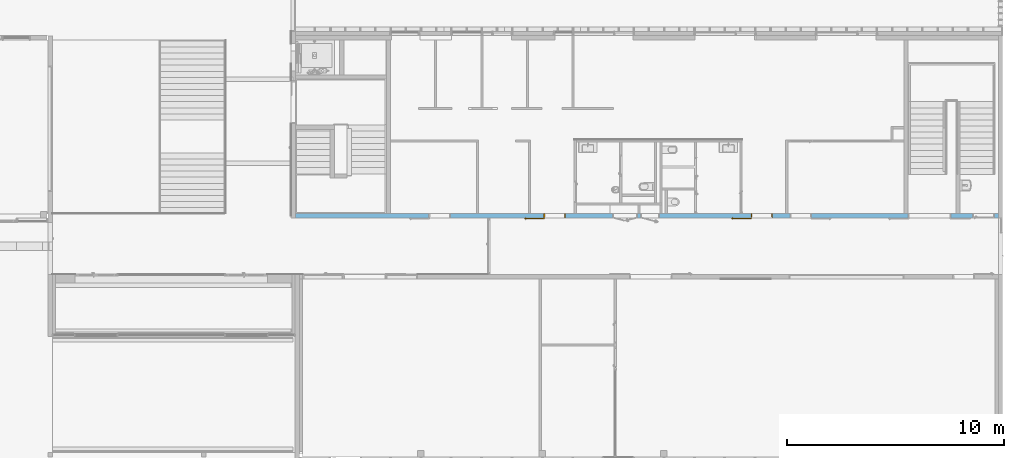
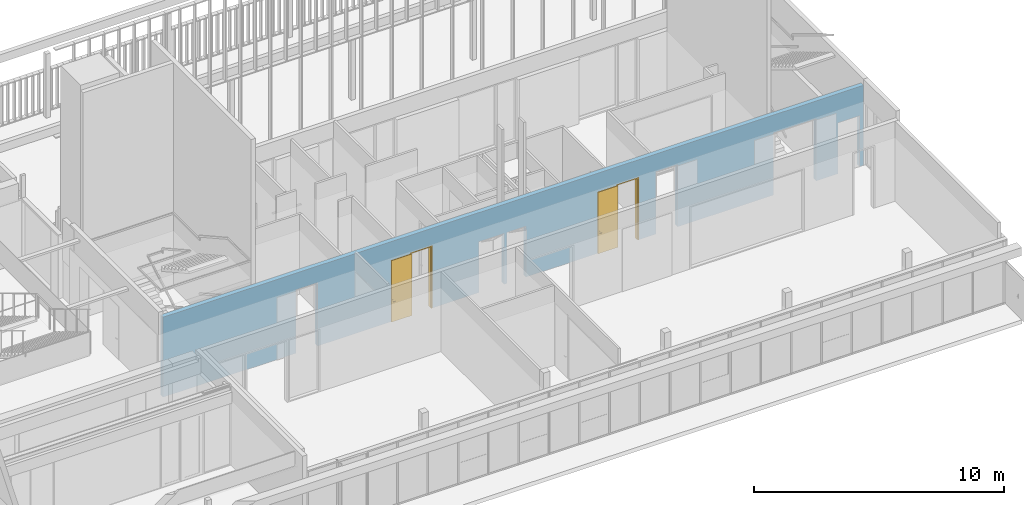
# One storey, part 165 of 240: 2 doors, 8 openings, plus 1 element that does not belong to this part.
"""IFC2X3 building model written with IfcOpenShell, lengths in centimetres."""

from ifc_helpers import new_model, entity, si_unit, converted_unit, derived_unit, direction, frame, frame_2d, origin, place, context, subcontext, project, spatial, polyline, rectangle, extrude, clip, bounded_halfspace, faceted_brep, source, transform, mapped, material, material_list, layer, layer_set, layer_usage, type_object, type_shapes, element, fill, save


model = new_model("IFC2X3")

# Units and contexts
model_context = context("Model", 3, precision=0.001, world=origin(), true_north=direction((6.12303176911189e-17, 1.0)))
body_context = subcontext(model_context, "Body", "Model", "MODEL_VIEW")
ifc_project = project(units=[si_unit("LENGTHUNIT", "METRE", prefix="CENTI"), si_unit("AREAUNIT", "SQUARE_METRE"), si_unit("VOLUMEUNIT", "CUBIC_METRE"), converted_unit("PLANEANGLEUNIT", "DEGREE", entity("IfcRatioMeasure", 0.0174532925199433), si_unit("PLANEANGLEUNIT", "RADIAN"), dimensions=[0, 0, 0, 0, 0, 0, 0]), si_unit("MASSUNIT", "GRAM", prefix="KILO"), derived_unit("MASSDENSITYUNIT", [(si_unit("MASSUNIT", "GRAM", prefix="KILO"), 1), (si_unit("LENGTHUNIT", "METRE"), -3)]), si_unit("TIMEUNIT", "SECOND"), si_unit("FREQUENCYUNIT", "HERTZ"), si_unit("THERMODYNAMICTEMPERATUREUNIT", "DEGREE_CELSIUS"), derived_unit("THERMALTRANSMITTANCEUNIT", [(si_unit("MASSUNIT", "GRAM", prefix="KILO"), 1), (si_unit("THERMODYNAMICTEMPERATUREUNIT", "KELVIN"), -1), (si_unit("TIMEUNIT", "SECOND"), -3)]), derived_unit("VOLUMETRICFLOWRATEUNIT", [(si_unit("LENGTHUNIT", "METRE"), 3), (si_unit("TIMEUNIT", "SECOND"), -1)]), si_unit("ELECTRICCURRENTUNIT", "AMPERE"), si_unit("ELECTRICVOLTAGEUNIT", "VOLT"), si_unit("POWERUNIT", "WATT"), si_unit("FORCEUNIT", "NEWTON", prefix="KILO"), si_unit("ILLUMINANCEUNIT", "LUX"), si_unit("LUMINOUSFLUXUNIT", "LUMEN"), si_unit("LUMINOUSINTENSITYUNIT", "CANDELA"), derived_unit("USERDEFINED", [(si_unit("MASSUNIT", "GRAM", prefix="KILO"), -1), (si_unit("LENGTHUNIT", "METRE"), -2), (si_unit("TIMEUNIT", "SECOND"), 3), (si_unit("LUMINOUSFLUXUNIT", "LUMEN"), 1)]), derived_unit("LINEARVELOCITYUNIT", [(si_unit("LENGTHUNIT", "METRE"), 1), (si_unit("TIMEUNIT", "SECOND"), -1)]), si_unit("PRESSUREUNIT", "PASCAL"), derived_unit("USERDEFINED", [(si_unit("LENGTHUNIT", "METRE"), -2), (si_unit("MASSUNIT", "GRAM", prefix="KILO"), 1), (si_unit("TIMEUNIT", "SECOND"), -2)])], contexts=[model_context])

# Site, building, storey
site_placement = place(None, frame((-2781.94577612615, 7442.24238424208, 0.0)))
site = spatial("IfcSite", under=ifc_project, at=site_placement, Name="Default", CompositionType="ELEMENT")
building_placement = place(site_placement, origin())
building = spatial("IfcBuilding", under=site, at=building_placement, CompositionType="ELEMENT")
storey_placement = place(building_placement, origin())
storey = spatial("IfcBuildingStorey", under=building, at=storey_placement, Name="N00 - COO", CompositionType="ELEMENT", Elevation=0.0)

# Wall, openings, doors
ifc_material_1 = material(Name="01 - Maçonnerie")
ifc_layer = layer(ifc_material_1, 20.0)
ifc_layer_set = layer_set([ifc_layer], Name="Mur de base:04 - Structure - béton - 20cm")
ifc_layer_usage = layer_usage(ifc_layer_set, "AXIS2", "NEGATIVE", 10.0)
wall_type = type_object("IfcWallType", Name="Mur de base:04 - Structure - béton - 20cm", PredefinedType="STANDARD", material=ifc_layer_set)
wall_placement = place(building_placement, frame((-3647.99987968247, -1920.07903364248, 0.0)))
wall = element("IfcWallStandardCase", 1, at=wall_placement, inside=storey, type_object=wall_type, material=ifc_layer_usage, Name="Mur de base:04 - Structure - béton - 20cm", ObjectType="Mur de base:04 - Structure - béton - 20cm", context=body_context, shape_type="Clipping", body=[
    clip(extrude(rectangle(XDim=3237.99999684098, YDim=19.9999999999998, at=frame_2d((1618.99999842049, -2.66453525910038e-15), x_axis=(-1.0, 0.0))), origin(), (0.0, 0.0, 1.0), 391.0), bounded_halfspace(frame((0.0, -10.0, 391.0), z_axis=(0.0, 0.0, -1.0), x_axis=(0.0, 1.0, 0.0)), True, frame((0.0, -10.0, 391.0)), polyline([(0.0, 0.0), (3238.0, 0.0), (3238.0, 20.0), (3062.69999684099, 20.0), (3042.69999684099, 20.0), (2268.49999684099, 20.0), (2258.49999684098, 20.0), (2058.49999684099, 20.0), (2048.49999684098, 20.0), (1848.49999684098, 20.0), (1838.49999684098, 20.0), (1713.49999684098, 20.0), (1703.49999684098, 20.0), (1293.99999684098, 20.0), (1283.99999684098, 20.0), (1083.99999684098, 20.0), (1073.99999684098, 20.0), (843.999996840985, 20.0), (833.999996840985, 20.0), (438.699996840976, 20.0), (0.0, 20.0), (0.0, 0.0)]))),
])
opening_1_placement = place(wall_placement, frame((3019.69999684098, 10.0, 0.0)))
element("IfcOpeningElement", 2, at=opening_1_placement, cuts=wall, Name="Int. Double:PP (1.90m x 3.00m):1", ObjectType="Opening", context=body_context, shape_type="SweptSolid", body=[
    extrude(rectangle(XDim=304.500000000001, YDim=197.0, at=frame_2d((152.250000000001, 98.5), x_axis=(1.0, 0.0))), frame((0.0, 0.0, 0.0), z_axis=(0.0, -1.0, 0.0), x_axis=(0.0, 0.0, 1.0)), (0.0, 0.0, 1.0), 20.0),
])
opening_2_placement = place(wall_placement, frame((1243.99999684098, 10.0, 0.0)))
opening_2 = element("IfcOpeningElement", 3, at=opening_2_placement, cuts=wall, Name="Int. Simple:PV (0.93m x 3.00m):1", ObjectType="Opening", context=body_context, shape_type="SweptSolid", body=[
    extrude(rectangle(XDim=304.500000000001, YDim=99.9999999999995, at=frame_2d((152.250000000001, 49.9999999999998), x_axis=(1.0, 0.0))), frame((0.0, 0.0, 0.0), z_axis=(0.0, -1.0, 0.0), x_axis=(0.0, 0.0, 1.0)), (0.0, 0.0, 1.0), 20.0),
])
opening_3_placement = place(wall_placement, frame((2198.49999684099, 10.0, 0.0)))
opening_3 = element("IfcOpeningElement", 4, at=opening_3_placement, cuts=wall, Name="Int. Simple:PV (0.93m x 3.00m):1", ObjectType="Opening", context=body_context, shape_type="SweptSolid", body=[
    extrude(rectangle(XDim=304.500000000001, YDim=99.9999999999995, at=frame_2d((152.250000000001, 49.9999999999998), x_axis=(1.0, 0.0))), frame((0.0, 0.0, 0.0), z_axis=(0.0, -1.0, 0.0), x_axis=(0.0, 0.0, 1.0)), (0.0, 0.0, 1.0), 20.0),
])
opening_4_placement = place(wall_placement, frame((713.999996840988, 10.0, 0.0)))
element("IfcOpeningElement", 5, at=opening_4_placement, cuts=wall, Name="Int. Simple:PP (0.93m x 3.06m):1", ObjectType="Opening", context=body_context, shape_type="SweptSolid", body=[
    extrude(rectangle(XDim=309.500000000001, YDim=99.9999999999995, at=frame_2d((154.750000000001, 49.9999999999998), x_axis=(1.0, 0.0))), frame((0.0, 0.0, 0.0), z_axis=(0.0, -1.0, 0.0), x_axis=(0.0, 0.0, 1.0)), (0.0, 0.0, 1.0), 20.0),
])
opening_5_placement = place(wall_placement, frame((1576.99999684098, 10.0, 0.0)))
element("IfcOpeningElement", 6, at=opening_5_placement, cuts=wall, Name="Int. Double:PP Placard (1.10m x 2.50m):1", ObjectType="Opening", context=body_context, shape_type="SweptSolid", body=[
    extrude(rectangle(XDim=248.500000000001, YDim=117.0, at=frame_2d((124.250000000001, 58.5000000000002), x_axis=(1.0, 0.0))), frame((0.0, 0.0, 0.0), z_axis=(0.0, -1.0, 0.0), x_axis=(0.0, 0.0, 1.0)), (0.0, 0.0, 1.0), 20.0),
])
opening_6_placement = place(wall_placement, frame((1677.0, 10.0, 0.0)))
element("IfcOpeningElement", 7, at=opening_6_placement, cuts=wall, Name="Int. Simple:PP Placard (0.80m x 2.50m):1", ObjectType="Opening", context=body_context, shape_type="SweptSolid", body=[
    extrude(rectangle(XDim=248.500000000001, YDim=86.9999999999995, at=frame_2d((124.250000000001, 43.4999999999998), x_axis=(1.0, 0.0))), frame((0.0, 0.0, 0.0), z_axis=(0.0, -1.0, 0.0), x_axis=(0.0, 0.0, 1.0)), (0.0, 0.0, 1.0), 20.0),
])
opening_7_placement = place(wall_placement, frame((2378.49999684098, 10.0, 0.0)))
element("IfcOpeningElement", 8, at=opening_7_placement, cuts=wall, Name="Int. Simple:PV (0.93m x 3.00m):1", ObjectType="Opening", context=body_context, shape_type="SweptSolid", body=[
    extrude(rectangle(XDim=304.500000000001, YDim=99.9999999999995, at=frame_2d((152.250000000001, 49.9999999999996), x_axis=(1.0, 0.0))), frame((0.0, 0.0, 0.0), z_axis=(0.0, -1.0, 0.0), x_axis=(0.0, 0.0, 1.0)), (0.0, 0.0, 1.0), 20.0),
])
opening_8_placement = place(wall_placement, frame((3220.0, 10.0, 0.0)))
element("IfcOpeningElement", 9, at=opening_8_placement, cuts=wall, Name="Int. Simple:PP simple (0.93m x 2.50m):1", ObjectType="Opening", context=body_context, shape_type="SweptSolid", body=[
    extrude(rectangle(XDim=248.500000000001, YDim=99.9999999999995, at=frame_2d((124.250000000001, 49.9999999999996), x_axis=(1.0, 0.0))), frame((0.0, 0.0, 0.0), z_axis=(0.0, -1.0, 0.0), x_axis=(0.0, 0.0, 1.0)), (0.0, 0.0, 1.0), 20.0),
])
ifc_material_2 = material(Name="Finition Peinture - Blanc satiné")
ifc_material_3 = material(Name="Bois - Panneau de porte")
ifc_material_4 = material(Name="Bois - Cadre de porte")
ifc_material_list_1 = material_list([ifc_material_2, ifc_material_3, ifc_material_4])
ifc_material_list_2 = material_list([ifc_material_2, ifc_material_3, ifc_material_4])
door_style = type_object("IfcDoorStyle", Name="PV (0.93m x 3.00m)", ConstructionType="NOTDEFINED", OperationType="SINGLE_SWING_RIGHT", ParameterTakesPrecedence=False, Sizeable=False, material=ifc_material_list_2)
shared_shape = source(origin(), body_context, "Body", "Brep", [
    faceted_brep([(-78.4999999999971, 0.499999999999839, 87.0), (-78.4999999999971, 0.499999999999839, 108.0), (-77.5352761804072, 0.499999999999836, 108.399601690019), (-76.4999999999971, 0.49999999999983, 108.535898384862), (-75.4647238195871, 0.499999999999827, 108.399601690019), (-74.4999999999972, 0.499999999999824, 108.0), (-74.499999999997, 0.499999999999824, 87.0), (-75.4647238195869, 0.499999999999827, 86.6003983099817), (-76.499999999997, 0.49999999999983, 86.464101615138), (-77.5352761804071, 0.499999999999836, 86.6003983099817), (-78.4999999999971, 0.0, 108.0), (-78.499999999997, 0.0, 87.0), (-77.5352761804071, 0.0, 86.6003983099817), (-76.499999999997, 0.0, 86.464101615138), (-75.464723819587, 0.0, 86.6003983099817), (-74.4999999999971, 0.0, 87.0), (-74.4999999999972, 0.0, 108.0), (-75.4647238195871, 0.0, 108.399601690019), (-76.4999999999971, 0.0, 108.535898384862), (-77.5352761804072, 0.0, 108.399601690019)], [[[0, 1, 2, 3, 4, 5, 6, 7, 8, 9]], [[10, 11, 12, 13, 14, 15, 16, 17, 18, 19]], [[9, 12, 11, 0]], [[8, 13, 12, 9]], [[7, 14, 13, 8]], [[7, 6, 15, 14]], [[15, 6, 5, 16]], [[4, 17, 16, 5]], [[3, 18, 17, 4]], [[2, 19, 18, 3]], [[2, 1, 10, 19]], [[11, 10, 1, 0]]]),
    faceted_brep([(-78.4999999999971, -4.0, 87.0), (-78.4999999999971, -4.0, 108.0), (-77.5352761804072, -4.0, 108.399601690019), (-76.4999999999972, -4.0, 108.535898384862), (-75.4647238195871, -4.0, 108.399601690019), (-74.4999999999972, -4.0, 108.0), (-74.4999999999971, -4.0, 87.0), (-75.464723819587, -4.0, 86.6003983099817), (-76.499999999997, -4.0, 86.464101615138), (-77.5352761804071, -4.0, 86.6003983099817), (-76.4999999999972, -4.50000000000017, 108.535898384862), (-77.5352761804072, -4.50000000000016, 108.399601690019), (-78.4999999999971, -4.50000000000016, 108.0), (-78.499999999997, -4.50000000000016, 87.0), (-77.5352761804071, -4.50000000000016, 86.6003983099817), (-76.499999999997, -4.50000000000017, 86.464101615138), (-75.464723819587, -4.50000000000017, 86.6003983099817), (-74.4999999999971, -4.50000000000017, 87.0), (-74.4999999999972, -4.50000000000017, 108.0), (-75.4647238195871, -4.50000000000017, 108.399601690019)], [[[0, 1, 2, 3, 4, 5, 6, 7, 8, 9]], [[10, 11, 12, 13, 14, 15, 16, 17, 18, 19]], [[4, 19, 18, 5]], [[3, 10, 19, 4]], [[2, 11, 10, 3]], [[2, 1, 12, 11]], [[13, 12, 1, 0]], [[9, 14, 13, 0]], [[8, 15, 14, 9]], [[7, 16, 15, 8]], [[7, 6, 17, 16]], [[17, 6, 5, 18]]]),
    faceted_brep([(-76.2974701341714, 0.499999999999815, 100.778044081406), (-76.7025298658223, 0.499999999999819, 100.778044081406), (-77.0999999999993, 0.499999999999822, 100.699999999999), (-77.1000000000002, 0.499999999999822, 99.2999999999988), (-76.7025298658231, 0.499999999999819, 99.221955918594), (-76.2974701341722, 0.499999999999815, 99.2219559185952), (-75.8999999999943, 0.499999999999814, 99.3000000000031), (-75.8999999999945, 0.499999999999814, 100.7), (-76.7025298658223, 3.10045754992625, 100.778044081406), (-77.0999999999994, 3.26509507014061, 100.7), (-76.2974701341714, 2.93267631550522, 100.778044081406), (-74.929860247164, 4.30028620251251, 100.778044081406), (-75.097641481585, 4.70534593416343, 100.778044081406), (-75.8999999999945, 2.76803879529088, 100.7), (-75.8999999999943, 2.76803879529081, 99.3000000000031), (-76.2974701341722, 2.93267631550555, 99.2219559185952), (-76.7025298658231, 3.10045754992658, 99.221955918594), (-75.0976414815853, 4.70534593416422, 99.221955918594), (-74.9298602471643, 4.3002862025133, 99.2219559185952), (-77.1000000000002, 3.26509507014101, 99.2999999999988), (-75.2622790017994, 5.10281606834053, 100.7), (-74.7652227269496, 3.9028160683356, 100.7), (-74.7652227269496, 3.90281606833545, 99.3000000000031), (-75.2622790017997, 5.10281606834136, 99.2999999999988), (-66.4981359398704, 5.10281606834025, 100.7), (-66.4981359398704, 4.70534593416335, 100.778044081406), (-66.4981359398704, 4.30028620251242, 100.778044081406), (-66.4981359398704, 3.90281606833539, 100.699999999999), (-66.4981359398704, 3.90281606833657, 99.3000000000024), (-66.4981359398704, 4.30028620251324, 99.2219559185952), (-66.4981359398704, 4.70534593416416, 99.221955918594), (-66.4981359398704, 5.10281606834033, 99.2999999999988), (-70.7139980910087, 4.50281606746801, 100.78786867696), (-71.2692302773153, 5.10281606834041, 100.7), (-70.63167933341, 3.90281606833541, 100.7), (-70.6316793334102, 3.9028160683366, 99.3000000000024), (-70.7139981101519, 4.50281607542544, 99.2121313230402), (-71.2692310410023, 5.10281606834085, 99.2999999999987)], [[[0, 1, 2, 3, 4, 5, 6, 7]], [[2, 1, 8, 9]], [[1, 0, 10, 11, 12, 8]], [[0, 7, 13, 10]], [[14, 13, 7, 6]], [[5, 15, 14, 6]], [[5, 4, 16, 17, 18, 15]], [[3, 19, 16, 4]], [[9, 19, 3, 2]], [[9, 8, 12, 20]], [[10, 13, 21, 11]], [[22, 21, 13, 14]], [[14, 15, 18, 22]], [[16, 19, 23, 17]], [[20, 23, 19, 9]], [[24, 25, 26, 27, 28, 29, 30, 31]], [[32, 25, 33]], [[33, 25, 24]], [[33, 20, 12]], [[11, 34, 32]], [[34, 11, 21]], [[27, 26, 34]], [[32, 26, 25]], [[32, 34, 26]], [[32, 33, 12]], [[11, 32, 12]], [[21, 22, 35, 28, 27, 34]], [[36, 29, 35]], [[30, 36, 37]], [[18, 35, 22]], [[29, 28, 35]], [[30, 37, 31]], [[37, 17, 23]], [[36, 17, 37]], [[36, 18, 17]], [[36, 35, 18]], [[29, 36, 30]], [[23, 20, 33, 24, 31, 37]]]),
    faceted_brep([(-76.2974701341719, -4.50000000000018, 99.2219559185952), (-76.7025298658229, -4.50000000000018, 99.221955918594), (-77.099999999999, -4.50000000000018, 99.2999999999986), (-77.0999999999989, -4.50000000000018, 100.7), (-76.702529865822, -4.50000000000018, 100.778044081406), (-76.2974701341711, -4.50000000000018, 100.778044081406), (-75.8999999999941, -4.50000000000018, 100.7), (-75.8999999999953, -4.50000000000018, 99.3000000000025), (-75.8999999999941, -6.74852045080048, 100.7), (-75.8999999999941, -6.74852045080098, 99.3000000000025), (-76.2974701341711, -6.91315797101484, 100.778044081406), (-76.702529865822, -7.08093920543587, 100.778044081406), (-75.0838906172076, -8.69957845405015, 100.778044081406), (-74.9161093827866, -8.29451872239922, 100.778044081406), (-77.0999999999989, -7.2455767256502, 100.7), (-77.099999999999, -7.24557672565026, 99.2999999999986), (-76.7025298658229, -7.08093920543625, 99.221955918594), (-76.297470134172, -6.91315797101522, 99.2219559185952), (-74.916109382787, -8.29451872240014, 99.2219559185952), (-75.083890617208, -8.69957845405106, 99.221955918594), (-74.7514718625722, -7.89704858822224, 100.7), (-74.7514718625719, -7.8970485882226, 99.3000000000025), (-75.2485281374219, -9.09704858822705, 100.7), (-75.248528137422, -9.09704858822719, 99.2999999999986), (-66.4954216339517, -8.29451872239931, 100.778044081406), (-66.4954216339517, -8.69957845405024, 100.778044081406), (-66.4954216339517, -9.09704858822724, 100.7), (-66.4954216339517, -9.09704858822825, 99.2999999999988), (-66.4954216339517, -8.69957845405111, 99.221955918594), (-66.4954216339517, -8.29451872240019, 99.2219559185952), (-66.4954216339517, -7.8970485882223, 99.3000000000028), (-66.4954216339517, -7.89704858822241, 100.7), (-70.623446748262, -7.89704858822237, 100.7), (-70.6234479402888, -7.89704858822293, 99.3000000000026), (-70.7057655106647, -8.49704858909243, 100.78786867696), (-71.2554794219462, -9.09704858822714, 100.7), (-71.2554795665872, -9.09704858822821, 99.2999999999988), (-70.7057654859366, -8.49704858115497, 99.2121313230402)], [[[0, 1, 2, 3, 4, 5, 6, 7]], [[8, 9, 7, 6]], [[5, 10, 8, 6]], [[5, 4, 11, 12, 13, 10]], [[3, 14, 11, 4]], [[14, 3, 2, 15]], [[2, 1, 16, 15]], [[1, 0, 17, 18, 19, 16]], [[0, 7, 9, 17]], [[20, 21, 9, 8]], [[8, 10, 13, 20]], [[14, 22, 12, 11]], [[23, 22, 14, 15]], [[15, 16, 19, 23]], [[17, 9, 21, 18]], [[24, 25, 26, 27, 28, 29, 30, 31]], [[21, 20, 32, 31, 30, 33]], [[34, 24, 32]], [[25, 34, 35]], [[13, 32, 20]], [[24, 31, 32]], [[25, 35, 26]], [[35, 12, 22]], [[34, 12, 35]], [[34, 13, 12]], [[34, 32, 13]], [[24, 34, 25]], [[22, 23, 36, 27, 26, 35]], [[37, 28, 36]], [[36, 28, 27]], [[36, 23, 19]], [[18, 33, 37]], [[33, 18, 21]], [[30, 29, 33]], [[37, 29, 28]], [[37, 33, 29]], [[37, 36, 19]], [[18, 37, 19]]]),
    faceted_brep([(-82.4999999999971, -4.0, 301.0), (-82.4999999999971, -4.0, 0.0), (10.5000000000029, -4.0, 0.0), (10.5000000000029, -4.0, 301.0), (-82.4999999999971, 0.0, 301.0), (10.5000000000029, 0.0, 301.0), (10.5000000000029, 0.0, 0.0), (-82.4999999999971, 0.0, 0.0)], [[[0, 1, 2, 3]], [[4, 5, 6, 7]], [[3, 5, 4, 0]], [[2, 6, 5, 3]], [[1, 7, 6, 2]], [[0, 4, 7, 1]]]),
    faceted_brep([(107.0, 20.0, 0.0), (107.0, 0.0, 0.0), (108.500000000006, 0.0, 0.0), (108.500000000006, -0.500000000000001, 0.0), (103.500000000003, -0.500000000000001, 0.0), (103.500000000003, 4.0, 0.0), (102.0, 4.0, 0.0), (102.0, 20.5000000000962, 0.0), (108.500000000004, 20.5000000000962, 0.0), (108.500000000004, 20.0, 0.0), (108.500000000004, 20.0, 306.0), (5.50000000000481, 20.0, 306.0), (5.50000000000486, 20.0, 0.0), (7.0, 20.0, 0.0), (7.0, 20.0, 304.500000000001), (107.0, 20.0, 304.500000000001), (108.500000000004, 20.5000000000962, 306.0), (102.0, 20.5000000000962, 299.5), (12.0, 20.5000000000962, 299.5), (12.0, 20.5000000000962, 0.0), (5.50000000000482, 20.5000000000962, 0.0), (5.50000000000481, 20.5000000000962, 306.0), (102.0, 4.0, 299.5), (103.500000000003, 4.0, 301.0), (10.5000000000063, 4.0, 301.0), (10.5000000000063, 4.0, 0.0), (12.0, 4.0, 0.0), (12.0, 4.0, 299.5), (103.500000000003, -0.500000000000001, 301.0), (108.500000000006, -0.500000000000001, 306.0), (5.5000000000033, -0.500000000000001, 306.0), (5.50000000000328, -0.500000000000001, 0.0), (10.5000000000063, -0.500000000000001, 0.0), (10.5000000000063, -0.500000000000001, 301.0), (108.500000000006, 0.0, 306.0), (107.0, 0.0, 304.500000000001), (7.0, 0.0, 304.500000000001), (7.0, 0.0, 0.0), (5.5000000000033, 0.0, 0.0), (5.50000000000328, 0.0, 306.0)], [[[0, 1, 2, 3, 4, 5, 6, 7, 8, 9]], [[9, 10, 11, 12, 13, 14, 15, 0]], [[8, 16, 10, 9]], [[7, 17, 18, 19, 20, 21, 16, 8]], [[7, 6, 22, 17]], [[5, 23, 24, 25, 26, 27, 22, 6]], [[5, 4, 28, 23]], [[3, 29, 30, 31, 32, 33, 28, 4]], [[2, 34, 29, 3]], [[1, 35, 36, 37, 38, 39, 34, 2]], [[0, 15, 35, 1]], [[14, 13, 37, 36]], [[13, 12, 20, 19, 26, 25, 32, 31, 38, 37]], [[21, 20, 12, 11]], [[27, 26, 19, 18]], [[33, 32, 25, 24]], [[39, 38, 31, 30]], [[15, 14, 36, 35]], [[16, 21, 11, 10]], [[22, 27, 18, 17]], [[28, 33, 24, 23]], [[34, 39, 30, 29]]]),
])
type_shapes(door_style, [shared_shape])
door_1_placement = place(opening_2_placement, frame((-107.0, -20.0, 0.0)))
door_1 = element("IfcDoor", 10, at=door_1_placement, inside=storey, type_object=door_style, material=ifc_material_list_1, Name="Int. Simple:PV (0.93m x 3.00m)", ObjectType="Int. Simple:PV (0.93m x 3.00m)", OverallHeight=304.500000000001, OverallWidth=99.9999999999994, context=body_context, shape_type="MappedRepresentation", body=[
    mapped(shared_shape, transform((0.0, 0.0, 0.0), scale=1.0)),
])
fill(opening_2, door_1)
ifc_material_list_3 = material_list([ifc_material_2, ifc_material_3, ifc_material_4])
door_2_placement = place(opening_3_placement, frame((-107.0, -20.0, 0.0)))
door_2 = element("IfcDoor", 11, at=door_2_placement, inside=storey, type_object=door_style, material=ifc_material_list_3, Name="Int. Simple:PV (0.93m x 3.00m)", ObjectType="Int. Simple:PV (0.93m x 3.00m)", OverallHeight=304.500000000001, OverallWidth=99.9999999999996, context=body_context, shape_type="MappedRepresentation", body=[
    mapped(shared_shape, transform((0.0, 0.0, 0.0), scale=1.0)),
])
fill(opening_3, door_2)

save(model, "model.ifc")
